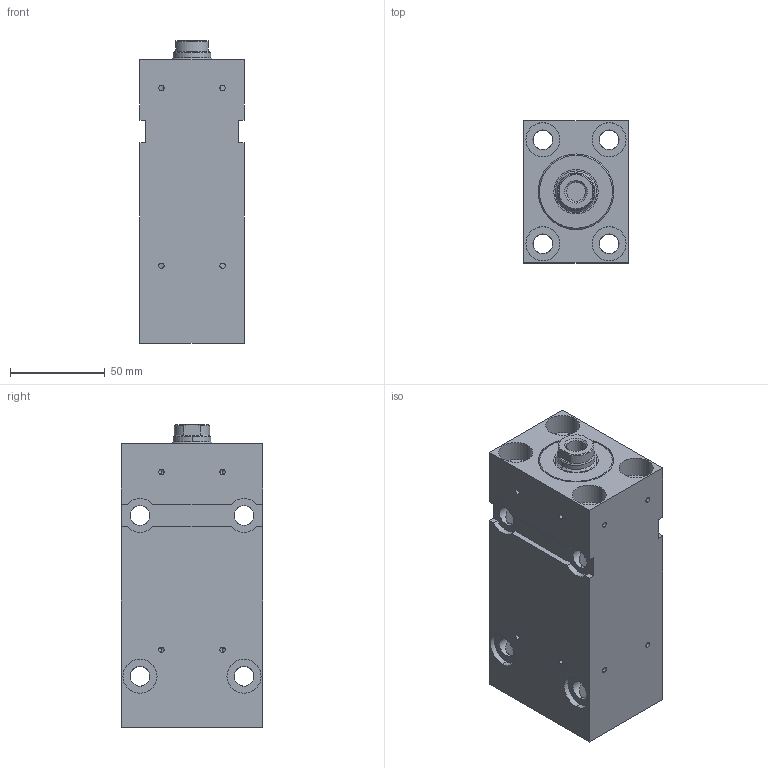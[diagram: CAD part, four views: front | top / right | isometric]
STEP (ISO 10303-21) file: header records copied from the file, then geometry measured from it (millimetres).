
FILE_DESCRIPTION (( 'STEP AP203' ), '1' );
FILE_NAME ('BZ_500.32_20.78.201.100 PP.KBC38__DH_0_.STEP', '2022-05-26T14:57:22', ( '' ), ( '' ), 'SwSTEP 2.0', 'SolidWorks 2020', '' );
FILE_SCHEMA (( 'CONFIG_CONTROL_DESIGN' ));
Length unit declared in the file: millimetre
Products named in the file (6): BZ_500.32_20.78.201.100 PP.KBC38__DH_0_; _Gehaeuse f. BZ500.32_20.Fehler in IDBF.201.100Fehler in IDNT00(1338frei278000))7^BZ_500.32_20.78.201.100 PP.KBC38__DH_0_(2)_BZ_500.32_20.78.201.100 PP.KBC38__DH_0_; _Dichtungssatz f. BZ_RZ_FZ.32_20.xx.201.100 Artikelnr._ 013411(0)^BZ_500.32_20.78.201.100 PP.KBC38__DH_0_(2)_BZ_500.32_20.78.201.100 PP.KBC38__DH_0_; BZ_500.32_20.78.201.100 PP.KBC38__DH_0_(2)^BZ_500.32_20.78.201.100 PP.KBC38__DH_0_; _Verschraubung komplett mit Dichtung f. BZ_RZ_FZ.32_20.201, Art.-Nr._ 041671(201)^BZ_500.32_20.78.201.100 PP.KBC38__DH_0_(2)_BZ_500.32_20.78.201.100 PP.KBC38__DH_0_; _Kolbenstange komplett f. BZ_RZ_FZ.32_20.xx.201.100, Art.-Nr._ 033414(0_11 1 12 1.75 0 0 10 15 0 0 0)0^BZ_500.32_20.78.201.100 PP.KBC38__DH_0_(2)_BZ_500.32_20.78.201.100 PP.KBC38__DH_0_
Assembly tree (5 placements, depth 3):
  BZ_500.32_20.78.201.100 PP.KBC38__DH_0_
    BZ_500.32_20.78.201.100 PP.KBC38__DH_0_(2)^BZ_500.32_20.78.201.100 PP.KBC38__DH_0_
      _Gehaeuse f. BZ500.32_20.Fehler in IDBF.201.100Fehler in IDNT00(1338frei278000))7^BZ_500.32_20.78.201.100 PP.KBC38__DH_0_(2)_BZ_500.32_20.78.201.100 PP.KBC38__DH_0_
      _Verschraubung komplett mit Dichtung f. BZ_RZ_FZ.32_20.201, Art.-Nr._ 041671(201)^BZ_500.32_20.78.201.100 PP.KBC38__DH_0_(2)_BZ_500.32_20.78.201.100 PP.KBC38__DH_0_
      _Dichtungssatz f. BZ_RZ_FZ.32_20.xx.201.100 Artikelnr._ 013411(0)^BZ_500.32_20.78.201.100 PP.KBC38__DH_0_(2)_BZ_500.32_20.78.201.100 PP.KBC38__DH_0_
      _Kolbenstange komplett f. BZ_RZ_FZ.32_20.xx.201.100, Art.-Nr._ 033414(0_11 1 12 1.75 0 0 10 15 0 0 0)0^BZ_500.32_20.78.201.100 PP.KBC38__DH_0_(2)_BZ_500.32_20.78.201.100 PP.KBC38__DH_0_
Bounding box: 55 x 75 x 160 mm (x, y, z)
Volume: 479724.5 mm3; surface area: 108925.6 mm2
Topology: 4 solids, 4 shells, 231 faces, 580 edges, 352 vertices
Faces by surface type: cylinder 145, plane 56, cone 30
Entity records: 7878 total; most frequent: CARTESIAN_POINT 1753, DIRECTION 1197, ORIENTED_EDGE 1128, EDGE_CURVE 564, AXIS2_PLACEMENT_3D 475, VERTEX_POINT 352, EDGE_LOOP 290, VECTOR 247
